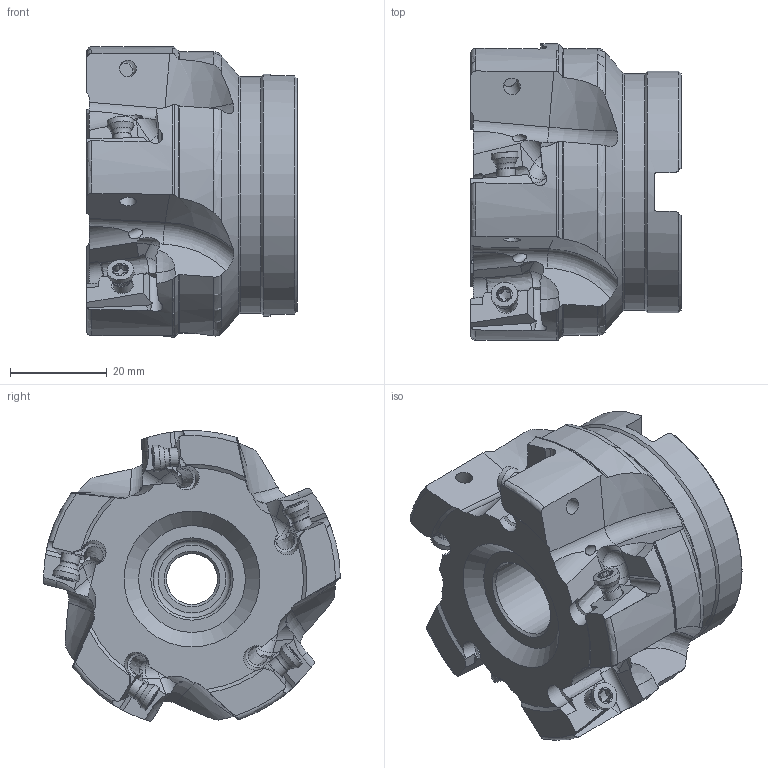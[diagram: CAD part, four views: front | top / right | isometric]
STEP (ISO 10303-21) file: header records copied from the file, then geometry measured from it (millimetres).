
FILE_DESCRIPTION(/* description */ (''),/* implementation_level */ '2;1');
FILE_NAME(/* name */ 'emp13-2.50''''-a0.75''''-an15-05c.stp',/* time_stamp */ '2020-03-23T11:13:16+08:00',/* author */ (''),/* organization */ (''),/* preprocessor_version */ 'ST-DEVELOPER v11',/* originating_system */ 'UGS - NX 5.0',/* authorisation */ '');
FILE_SCHEMA (('AUTOMOTIVE_DESIGN { 1 0 10303 214 1 1 1 1 }'));
Length unit declared in the file: millimetre
Products named in the file (1): zhanDF31mm84
Bounding box: 43.45 x 61.3 x 60.04 mm (x, y, z)
Volume: 77193.3 mm3; surface area: 18339 mm2
Topology: 6 solids, 6 shells, 438 faces, 1180 edges, 743 vertices
Faces by surface type: plane 160, cylinder 160, cone 56, torus 37, sphere 15, bspline 5, extrusion 5
Full cylindrical faces by diameter (mm): 2 x5, 3.432 x5, 3.7 x5, 3.838 x5, 5.5 x5, 10.5 x1, 16 x1, 19.05 x1, 21.05 x1, 49 x1, 50 x1
Entity records: 15564 total; most frequent: CARTESIAN_POINT 5075, DIRECTION 2256, ORIENTED_EDGE 2120, EDGE_CURVE 1060, AXIS2_PLACEMENT_3D 1006, VERTEX_POINT 711, EDGE_LOOP 532, CIRCLE 458
